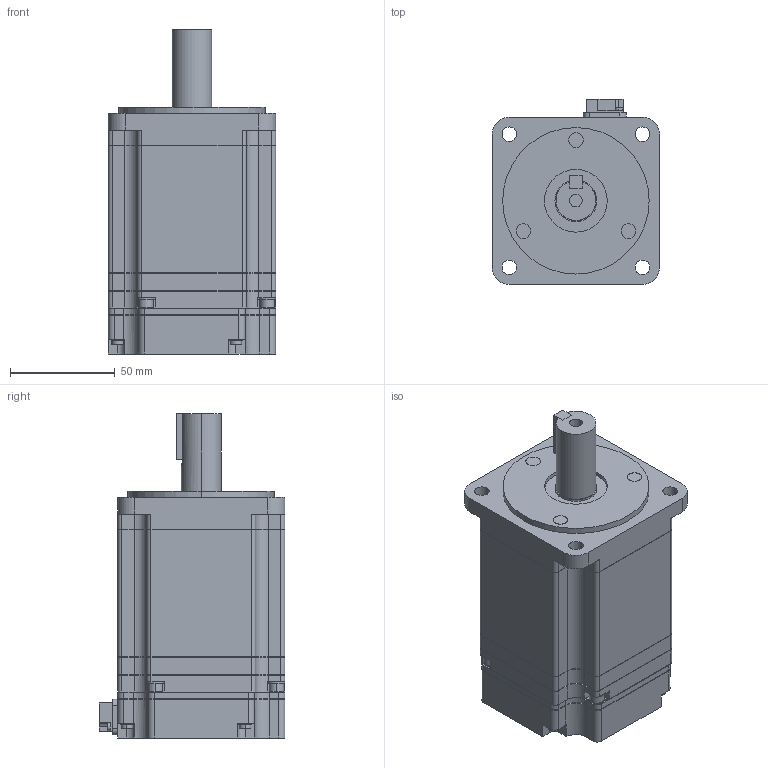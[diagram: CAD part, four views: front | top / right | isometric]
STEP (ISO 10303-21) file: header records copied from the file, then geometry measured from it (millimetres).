
FILE_DESCRIPTION (( 'STEP AP203' ), '1' );
FILE_NAME ('sgmav_08a_a61.STEP', '2008-06-10T12:01:29', ( 'T' ), ( 'T' ), 'SwSTEP 2.0', 'SolidWorks 2006052', '' );
FILE_SCHEMA (( 'CONFIG_CONTROL_DESIGN' ));
Length unit declared in the file: millimetre
Products named in the file (3): sgmav_08a_a61_base; sgmav_08a_a61; sgmav_08a_a61_key
Assembly tree (2 placements, depth 2):
  sgmav_08a_a61
    sgmav_08a_a61_key
    sgmav_08a_a61_base
Bounding box: 80.1 x 88.8 x 155.1 mm (x, y, z)
Volume: 671329.4 mm3; surface area: 57182 mm2
Topology: 2 solids, 2 shells, 494 faces, 1318 edges, 872 vertices
Faces by surface type: plane 274, cylinder 220
Entity records: 15847 total; most frequent: DIRECTION 2766, CARTESIAN_POINT 2747, ORIENTED_EDGE 2636, EDGE_CURVE 1318, AXIS2_PLACEMENT_3D 953, VERTEX_POINT 872, LINE 860, VECTOR 860
